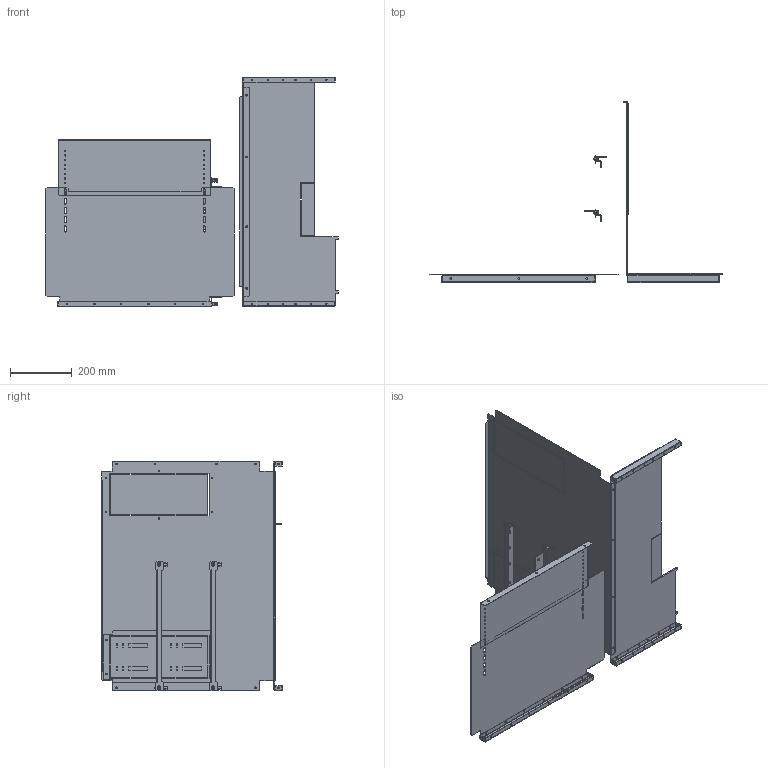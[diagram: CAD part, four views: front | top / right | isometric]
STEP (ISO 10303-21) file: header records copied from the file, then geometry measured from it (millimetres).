
FILE_DESCRIPTION(('CAx-IF Rec.Pracs.---Model Styling and Organization---1.2---2011-12-15','CAx-IF Rec.Pracs.---Geometric and Assembly Validation Properties---4.1---2014-06-16','CAx-IF Rec.Pracs.---PMI Polyline Presentation---2.0---2013-05-24'),'2;1');
FILE_NAME('R5FCMS66480 (NW08-25F).stp','2021-05-06T02:41:56+03:00',(''),(''),'STEP Interface 4.4 by CT CoreTechnologie','3D_Evolution4.4 by CT CoreTechnologie','');
FILE_SCHEMA(('AUTOMOTIVE_DESIGN { 1 0 10303 214 1 1 1 1 }'));
Length unit declared in the file: millimetre
Products named in the file (11): R5FCMS66480 (NW08-25F); RB.0697.00.00.1_-01; RB.0777.00.00.1_-03; RB.0776.00.00.1_-00; RB.0697.00.00.1_-00; AC00C485; RB.0780.00.00.1_-01; RB.0779.00.00.1_-01; M6x16-DIN 7985 ISR_thread; RB.1168.00.00.0_-01; RB.0778.00.00.1_-00
Assembly tree (18 placements, depth 2):
  R5FCMS66480 (NW08-25F)
    RB.0697.00.00.1_-01
    RB.0777.00.00.1_-03
    RB.0776.00.00.1_-00
    RB.0697.00.00.1_-00  x2
    AC00C485  x4
    RB.0780.00.00.1_-01  x2
    RB.0779.00.00.1_-01
    M6x16-DIN 7985 ISR_thread  x4
    RB.1168.00.00.0_-01
    RB.0778.00.00.1_-00
Bounding box: 945.9 x 585.5 x 744 mm (x, y, z)
Surface area: 2219035 mm2 (no closed solid volume)
Topology: 0 solids, 28 shells, 1062 faces, 2814 edges, 1796 vertices
Faces by surface type: plane 546, cylinder 448, bspline 68
Entity records: 23211 total; most frequent: CARTESIAN_POINT 4422, DIRECTION 3743, ORIENTED_EDGE 3712, EDGE_CURVE 1856, VECTOR 1289, LINE 1289, AXIS2_PLACEMENT_3D 1227, VERTEX_POINT 1210
